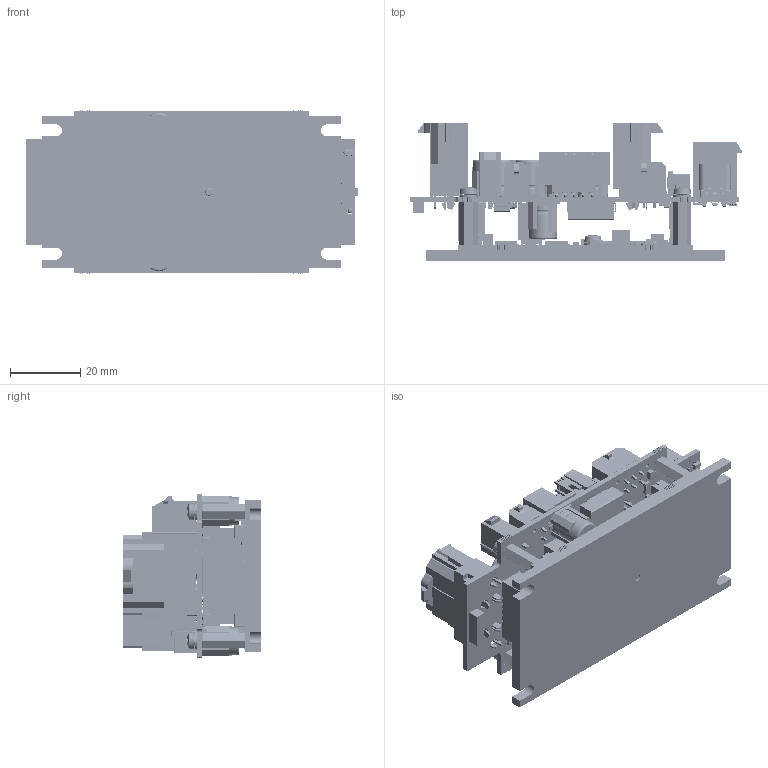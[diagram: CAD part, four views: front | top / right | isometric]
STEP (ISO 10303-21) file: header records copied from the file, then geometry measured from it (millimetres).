
FILE_DESCRIPTION((''),'2;1');
FILE_NAME('ESCON2_COMPACT_60_30_PRT','2024-03-07T11:09:01',('MMAGGUKA'),(''),'CREO PARAMETRIC BY PTC INC, 2022484','CREO PARAMETRIC BY PTC INC, 2022484','');
FILE_SCHEMA(('CONFIG_CONTROL_DESIGN','SHAPE_APPEARANCE_LAYERS_GROUPS'));
Products named in the file (1): ESCON2_COMPACT_60_30_PRT
Bounding box: 94.35 x 39.1 x 46.36 mm (x, y, z)
Volume: 46498.8 mm3; surface area: 57573.9 mm2
Topology: 106 solids, 106 shells, 22206 faces, 62710 edges, 39295 vertices
Faces by surface type: plane 15180, cylinder 5269, sphere 1282, torus 160, extrusion 141, cone 110, bspline 64
Entity records: 782689 total; most frequent: CARTESIAN_POINT 152991, ORIENTED_EDGE 122518, DIRECTION 111552, EDGE_CURVE 61259, VECTOR 48896, LINE 48755, VERTEX_POINT 39295, AXIS2_PLACEMENT_3D 31328
